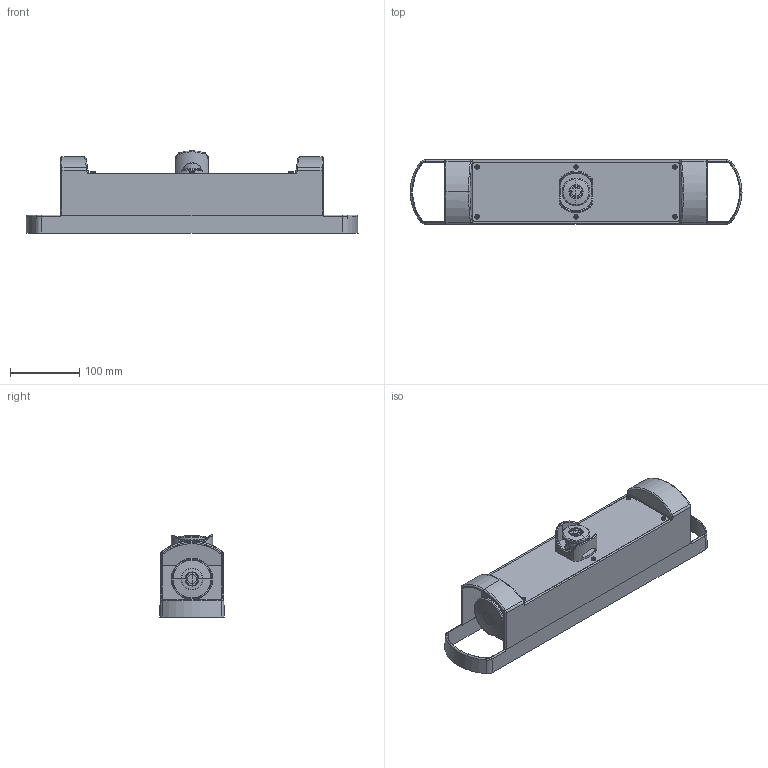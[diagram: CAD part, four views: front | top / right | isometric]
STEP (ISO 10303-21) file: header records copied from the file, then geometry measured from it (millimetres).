
FILE_DESCRIPTION (( 'STEP AP214' ), '1' );
FILE_NAME ('060C2MA.STEP', '2019-10-02T11:32:10', ( '' ), ( '' ), 'SwSTEP 2.0', 'SolidWorks 2013', '' );
FILE_SCHEMA (( 'AUTOMOTIVE_DESIGN' ));
Length unit declared in the file: millimetre
Products named in the file (6): 020PEOG; 020PTFAR; Testa Vite M4; 060PC; 060C2MGR; 060C2MA
Assembly tree (10 placements, depth 2):
  060C2MA
    060C2MGR
    060PC
    Testa Vite M4  x6
    020PTFAR
    020PEOG
Bounding box: 480 x 93.14 x 118.67 mm (x, y, z)
Volume: 835325.4 mm3; surface area: 392649.9 mm2
Topology: 37 solids, 37 shells, 1843 faces, 4731 edges, 3009 vertices
Faces by surface type: plane 865, cylinder 503, torus 195, cone 142, bspline 96, sphere 42
Entity records: 70442 total; most frequent: CARTESIAN_POINT 12471, DIRECTION 8852, ORIENTED_EDGE 8490, EDGE_CURVE 4245, AXIS2_PLACEMENT_3D 3361, VERTEX_POINT 2699, VECTOR 2130, LINE 2130
